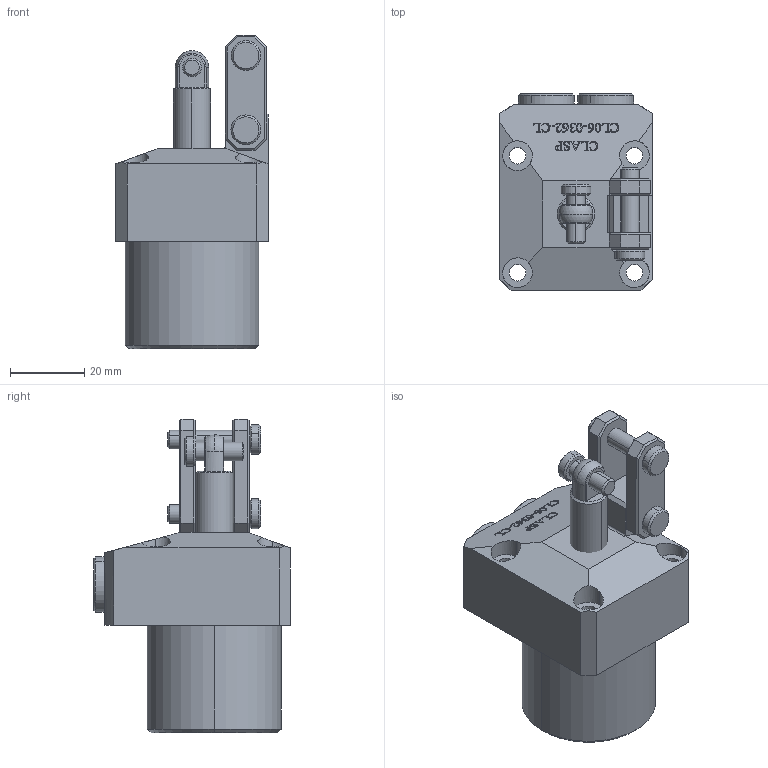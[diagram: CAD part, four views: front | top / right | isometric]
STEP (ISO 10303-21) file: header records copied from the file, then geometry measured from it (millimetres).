
FILE_DESCRIPTION (( 'STEP AP203' ), '1' );
FILE_NAME ('CL.06_0362CL.STEP', '2022-07-05T17:18:30', ( '' ), ( '' ), 'SwSTEP 2.0', 'SolidWorks 2017', '' );
FILE_SCHEMA (( 'CONFIG_CONTROL_DESIGN' ));
Length unit declared in the file: millimetre
Products named in the file (7): CL06.-0362 CL Link pin_4; CL06.-0362 CL Link pin_5; CL06.-0362 CL Plug  _8; CL.06_0362CL; CL06.-0362 CL Body; CL06.-0362 CL piston _1; CL06.-0362 CL Link -3
Assembly tree (9 placements, depth 2):
  CL.06_0362CL
    CL06.-0362 CL Body
    CL06.-0362 CL piston _1
    CL06.-0362 CL Link -3  x2
    CL06.-0362 CL Link pin_4  x2
    CL06.-0362 CL Link pin_5
    CL06.-0362 CL Plug  _8  x2
Bounding box: 41 x 53 x 84.51 mm (x, y, z)
Volume: 80776.6 mm3; surface area: 19735.2 mm2
Topology: 9 solids, 9 shells, 530 faces, 1362 edges, 883 vertices
Faces by surface type: plane 242, bspline 185, cylinder 69, cone 32, sphere 2
Entity records: 23225 total; most frequent: CARTESIAN_POINT 11926, ORIENTED_EDGE 2476, DIRECTION 1588, EDGE_CURVE 1238, VERTEX_POINT 811, VECTOR 714, LINE 714, EDGE_LOOP 525
